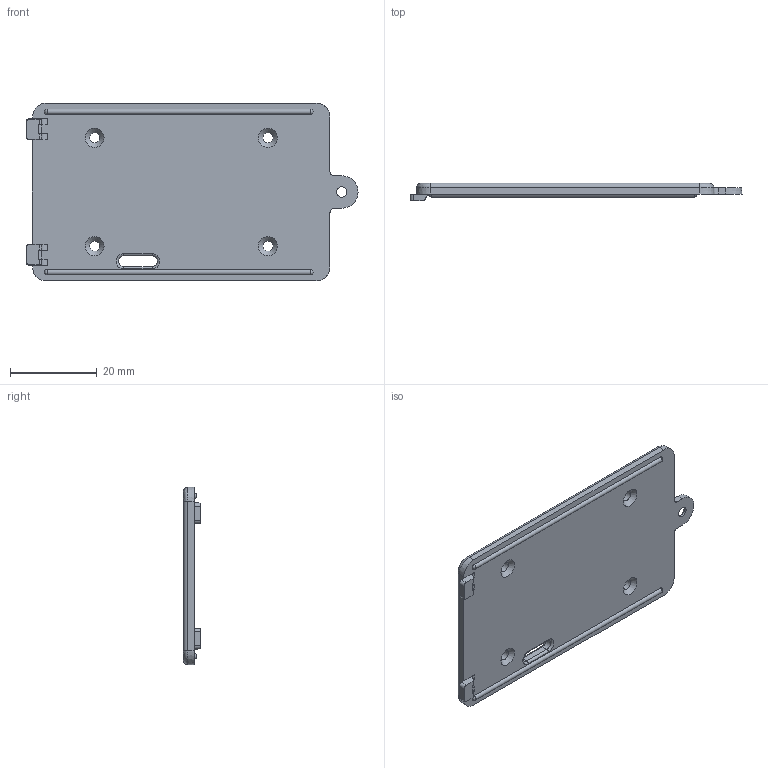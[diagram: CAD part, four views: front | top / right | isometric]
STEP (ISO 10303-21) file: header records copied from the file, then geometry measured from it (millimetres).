
FILE_DESCRIPTION(/* description */ (''),/* implementation_level */ '2;1');
FILE_NAME(/* name */ 'batteryDoor.step',/* time_stamp */ '2026-07-04T13:57:44-07:00',/* author */ (''),/* organization */ (''),/* preprocessor_version */ 'ST-DEVELOPER v20.1',/* originating_system */ 'Autodesk Translation Framework v15.8.0.0',/* authorisation */ '');
FILE_SCHEMA (('AUTOMOTIVE_DESIGN { 1 0 10303 214 3 1 1 }'));
Length unit declared in the file: millimetre
Products named in the file (1): BEEFY_batteryDoor
Bounding box: 76.64 x 4 x 41.07 mm (x, y, z)
Volume: 7017.2 mm3; surface area: 6341.4 mm2
Topology: 1 solids, 1 shells, 82 faces, 217 edges, 131 vertices
Faces by surface type: cylinder 33, plane 27, cone 10, torus 4, bspline 4, sphere 4
Full cylindrical faces by diameter (mm): 2.4 x5
Entity records: 2635 total; most frequent: CARTESIAN_POINT 551, DIRECTION 444, ORIENTED_EDGE 418, EDGE_CURVE 209, AXIS2_PLACEMENT_3D 164, VERTEX_POINT 131, LINE 116, VECTOR 116
